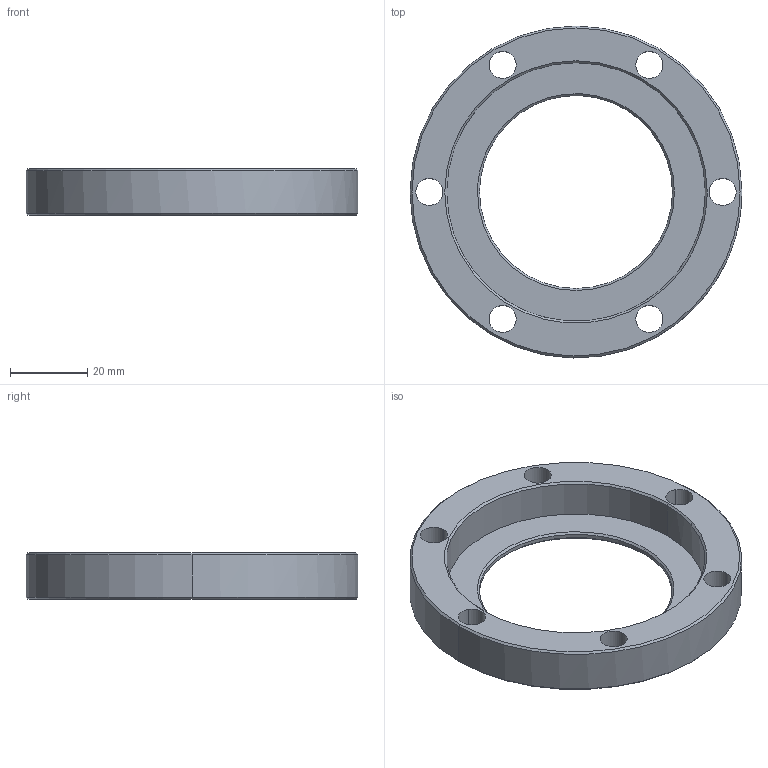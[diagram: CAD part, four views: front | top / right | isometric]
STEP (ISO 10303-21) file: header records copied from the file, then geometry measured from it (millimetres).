
FILE_DESCRIPTION(('CATIA V5 STEP Exchange'),'2;1');
FILE_NAME('C:\Users\Administrator\Desktop\观测镜盖板.stp','2021-08-03T08:41:36+00:00',('none'),('none'),'CATIA Version 5 Release 20 GA (IN-10)','CATIA V5 STEP AP214','none');
FILE_SCHEMA(('AUTOMOTIVE_DESIGN { 1 0 10303 214 1 1 1 1 }'));
Length unit declared in the file: millimetre
Products named in the file (1): 观测镜盖板
Bounding box: 86 x 86 x 12 mm (x, y, z)
Volume: 27618 mm3; surface area: 14161.7 mm2
Topology: 1 solids, 1 shells, 36 faces, 89 edges, 56 vertices
Faces by surface type: cylinder 18, cone 15, plane 3
Entity records: 1085 total; most frequent: CARTESIAN_POINT 188, ORIENTED_EDGE 178, DIRECTION 159, AXIS2_PLACEMENT_3D 93, EDGE_CURVE 89, CIRCLE 56, VERTEX_POINT 56, EDGE_LOOP 51
